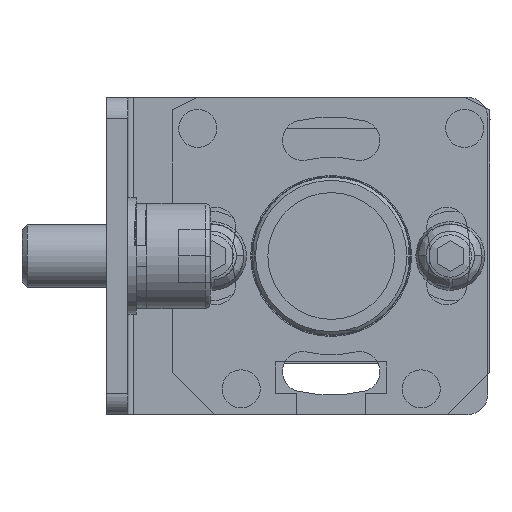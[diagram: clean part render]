
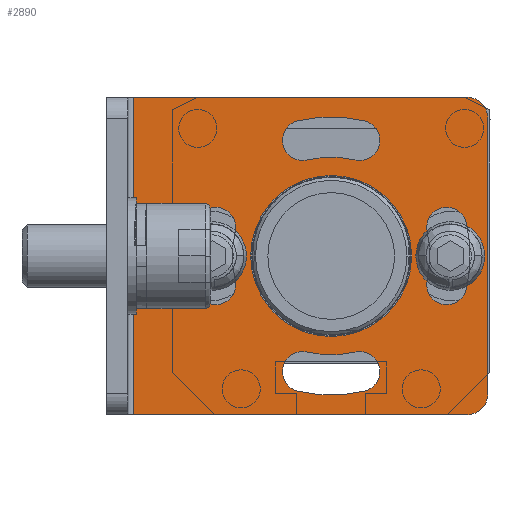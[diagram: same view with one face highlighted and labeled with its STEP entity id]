
A CAD part, front view. The second image highlights one B-rep face of the part: STEP entity #2890.
In plain terms, the highlighted planar face has unit normal (0, -1, 0).
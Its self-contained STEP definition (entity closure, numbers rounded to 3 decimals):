
#692=LINE('',#40684,#1452);
#697=LINE('',#40696,#1457);
#703=LINE('',#40712,#1463);
#707=LINE('',#40736,#1467);
#1452=VECTOR('',#13263,1.);
#1457=VECTOR('',#13272,1.);
#1463=VECTOR('',#13290,1.);
#1467=VECTOR('',#13320,1.);
#1962=PLANE('',#11082);
#2299=FACE_BOUND('',#4309,.T.);
#2300=FACE_BOUND('',#4310,.T.);
#2301=FACE_BOUND('',#4311,.T.);
#2302=FACE_BOUND('',#4312,.T.);
#2303=FACE_BOUND('',#4313,.T.);
#2304=FACE_BOUND('',#4314,.T.);
#2890=ADVANCED_FACE('',(#2299,#2300,#2301,#2302,#2303,#2304),#1962,.T.);
#4309=EDGE_LOOP('',(#6781,#6782,#6783,#6784));
#4310=EDGE_LOOP('',(#6785,#6786,#6787,#6788));
#4311=EDGE_LOOP('',(#6789,#6790,#6791,#6792));
#4312=EDGE_LOOP('',(#6793));
#4313=EDGE_LOOP('',(#6794,#6795,#6796,#6797));
#4314=EDGE_LOOP('',(#6798,#6799,#6800,#6801,#6802,#6803));
#6781=ORIENTED_EDGE('',*,*,#9603,.T.);
#6782=ORIENTED_EDGE('',*,*,#9604,.T.);
#6783=ORIENTED_EDGE('',*,*,#9542,.T.);
#6784=ORIENTED_EDGE('',*,*,#9605,.T.);
#6785=ORIENTED_EDGE('',*,*,#9606,.T.);
#6786=ORIENTED_EDGE('',*,*,#9546,.T.);
#6787=ORIENTED_EDGE('',*,*,#9607,.T.);
#6788=ORIENTED_EDGE('',*,*,#9550,.T.);
#6789=ORIENTED_EDGE('',*,*,#9608,.T.);
#6790=ORIENTED_EDGE('',*,*,#9554,.T.);
#6791=ORIENTED_EDGE('',*,*,#9609,.T.);
#6792=ORIENTED_EDGE('',*,*,#9558,.T.);
#6793=ORIENTED_EDGE('',*,*,#9563,.T.);
#6794=ORIENTED_EDGE('',*,*,#9610,.T.);
#6795=ORIENTED_EDGE('',*,*,#9611,.T.);
#6796=ORIENTED_EDGE('',*,*,#9612,.T.);
#6797=ORIENTED_EDGE('',*,*,#9564,.T.);
#6798=ORIENTED_EDGE('',*,*,#9613,.T.);
#6799=ORIENTED_EDGE('',*,*,#9614,.T.);
#6800=ORIENTED_EDGE('',*,*,#9598,.F.);
#6801=ORIENTED_EDGE('',*,*,#9584,.T.);
#6802=ORIENTED_EDGE('',*,*,#9590,.F.);
#6803=ORIENTED_EDGE('',*,*,#9615,.T.);
#8262=VERTEX_POINT('',#40594);
#8263=VERTEX_POINT('',#40595);
#8266=VERTEX_POINT('',#40603);
#8267=VERTEX_POINT('',#40604);
#8270=VERTEX_POINT('',#40612);
#8271=VERTEX_POINT('',#40613);
#8274=VERTEX_POINT('',#40621);
#8275=VERTEX_POINT('',#40622);
#8278=VERTEX_POINT('',#40630);
#8279=VERTEX_POINT('',#40631);
#8283=VERTEX_POINT('',#40641);
#8284=VERTEX_POINT('',#40644);
#8285=VERTEX_POINT('',#40645);
#8298=VERTEX_POINT('',#40681);
#8299=VERTEX_POINT('',#40683);
#8304=VERTEX_POINT('',#40695);
#8309=VERTEX_POINT('',#40713);
#8312=VERTEX_POINT('',#40723);
#8313=VERTEX_POINT('',#40724);
#8314=VERTEX_POINT('',#40732);
#8315=VERTEX_POINT('',#40734);
#8316=VERTEX_POINT('',#40737);
#8317=VERTEX_POINT('',#40738);
#9542=EDGE_CURVE('',#8262,#8263,#10244,.T.);
#9546=EDGE_CURVE('',#8266,#8267,#10246,.T.);
#9550=EDGE_CURVE('',#8270,#8271,#10248,.T.);
#9554=EDGE_CURVE('',#8274,#8275,#10250,.T.);
#9558=EDGE_CURVE('',#8278,#8279,#10252,.T.);
#9563=EDGE_CURVE('',#8283,#8283,#10255,.T.);
#9564=EDGE_CURVE('',#8284,#8285,#10256,.T.);
#9584=EDGE_CURVE('',#8298,#8299,#692,.T.);
#9590=EDGE_CURVE('',#8304,#8299,#697,.T.);
#9598=EDGE_CURVE('',#8298,#8309,#703,.T.);
#9603=EDGE_CURVE('',#8312,#8313,#10268,.T.);
#9604=EDGE_CURVE('',#8313,#8262,#10269,.T.);
#9605=EDGE_CURVE('',#8263,#8312,#10270,.T.);
#9606=EDGE_CURVE('',#8271,#8266,#10271,.T.);
#9607=EDGE_CURVE('',#8267,#8270,#10272,.T.);
#9608=EDGE_CURVE('',#8279,#8274,#10273,.T.);
#9609=EDGE_CURVE('',#8275,#8278,#10274,.T.);
#9610=EDGE_CURVE('',#8285,#8314,#10275,.T.);
#9611=EDGE_CURVE('',#8314,#8315,#10276,.T.);
#9612=EDGE_CURVE('',#8315,#8284,#10277,.T.);
#9613=EDGE_CURVE('',#8316,#8317,#707,.T.);
#9614=EDGE_CURVE('',#8317,#8309,#10278,.T.);
#9615=EDGE_CURVE('',#8304,#8316,#10279,.T.);
#10244=CIRCLE('',#11028,1.9);
#10246=CIRCLE('',#11031,13.15);
#10248=CIRCLE('',#11034,9.35);
#10250=CIRCLE('',#11037,1.9);
#10252=CIRCLE('',#11040,1.9);
#10255=CIRCLE('',#11044,7.6);
#10256=CIRCLE('',#11046,1.9);
#10268=CIRCLE('',#11070,1.9);
#10269=CIRCLE('',#11071,13.15);
#10270=CIRCLE('',#11072,9.35);
#10271=CIRCLE('',#11073,1.9);
#10272=CIRCLE('',#11074,1.9);
#10273=CIRCLE('',#11075,13.15);
#10274=CIRCLE('',#11076,9.35);
#10275=CIRCLE('',#11077,13.15);
#10276=CIRCLE('',#11078,1.9);
#10277=CIRCLE('',#11079,9.35);
#10278=CIRCLE('',#11080,2.);
#10279=CIRCLE('',#11081,2.);
#11028=AXIS2_PLACEMENT_3D('',#40593,#13179,#13180);
#11031=AXIS2_PLACEMENT_3D('',#40602,#13187,#13188);
#11034=AXIS2_PLACEMENT_3D('',#40611,#13195,#13196);
#11037=AXIS2_PLACEMENT_3D('',#40620,#13203,#13204);
#11040=AXIS2_PLACEMENT_3D('',#40629,#13211,#13212);
#11044=AXIS2_PLACEMENT_3D('',#40640,#13221,#13222);
#11046=AXIS2_PLACEMENT_3D('',#40643,#13225,#13226);
#11070=AXIS2_PLACEMENT_3D('',#40722,#13300,#13301);
#11071=AXIS2_PLACEMENT_3D('',#40725,#13302,#13303);
#11072=AXIS2_PLACEMENT_3D('',#40726,#13304,#13305);
#11073=AXIS2_PLACEMENT_3D('',#40727,#13306,#13307);
#11074=AXIS2_PLACEMENT_3D('',#40728,#13308,#13309);
#11075=AXIS2_PLACEMENT_3D('',#40729,#13310,#13311);
#11076=AXIS2_PLACEMENT_3D('',#40730,#13312,#13313);
#11077=AXIS2_PLACEMENT_3D('',#40731,#13314,#13315);
#11078=AXIS2_PLACEMENT_3D('',#40733,#13316,#13317);
#11079=AXIS2_PLACEMENT_3D('',#40735,#13318,#13319);
#11080=AXIS2_PLACEMENT_3D('',#40739,#13321,#13322);
#11081=AXIS2_PLACEMENT_3D('',#40740,#13323,#13324);
#11082=AXIS2_PLACEMENT_3D('',#40741,#13325,#13326);
#13179=DIRECTION('',(0.,1.,0.));
#13180=DIRECTION('',(0.,0.,1.));
#13187=DIRECTION('',(0.,1.,0.));
#13188=DIRECTION('',(0.,0.,1.));
#13195=DIRECTION('',(0.,-1.,0.));
#13196=DIRECTION('',(0.,0.,1.));
#13203=DIRECTION('',(0.,1.,0.));
#13204=DIRECTION('',(0.,0.,1.));
#13211=DIRECTION('',(0.,1.,0.));
#13212=DIRECTION('',(0.,0.,1.));
#13221=DIRECTION('',(0.,1.,0.));
#13222=DIRECTION('',(0.,0.,1.));
#13225=DIRECTION('',(0.,1.,0.));
#13226=DIRECTION('',(0.,0.,1.));
#13263=DIRECTION('',(0.,0.,-1.));
#13272=DIRECTION('',(-1.,0.,0.));
#13290=DIRECTION('',(1.,0.,0.));
#13300=DIRECTION('',(0.,1.,0.));
#13301=DIRECTION('',(0.,0.,1.));
#13302=DIRECTION('',(0.,1.,0.));
#13303=DIRECTION('',(0.,0.,1.));
#13304=DIRECTION('',(0.,-1.,0.));
#13305=DIRECTION('',(0.,0.,1.));
#13306=DIRECTION('',(0.,1.,0.));
#13307=DIRECTION('',(0.,0.,1.));
#13308=DIRECTION('',(0.,1.,0.));
#13309=DIRECTION('',(0.,0.,1.));
#13310=DIRECTION('',(0.,1.,0.));
#13311=DIRECTION('',(0.,0.,1.));
#13312=DIRECTION('',(0.,-1.,0.));
#13313=DIRECTION('',(0.,0.,1.));
#13314=DIRECTION('',(0.,1.,0.));
#13315=DIRECTION('',(0.,0.,1.));
#13316=DIRECTION('',(0.,1.,0.));
#13317=DIRECTION('',(0.,0.,1.));
#13318=DIRECTION('',(0.,-1.,0.));
#13319=DIRECTION('',(0.,0.,1.));
#13320=DIRECTION('',(0.,0.,1.));
#13321=DIRECTION('',(0.,-1.,0.));
#13322=DIRECTION('',(0.,0.,-1.));
#13323=DIRECTION('',(0.,-1.,0.));
#13324=DIRECTION('',(0.,0.,1.));
#13325=DIRECTION('',(0.,-1.,0.));
#13326=DIRECTION('',(1.,0.,0.));
#40593=CARTESIAN_POINT('',(-110.921,-578.,2.851));
#40594=CARTESIAN_POINT('',(-112.765,-578.,3.307));
#40595=CARTESIAN_POINT('',(-109.077,-578.,2.395));
#40602=CARTESIAN_POINT('',(-100.,-578.,0.15));
#40603=CARTESIAN_POINT('',(-103.157,-578.,12.915));
#40604=CARTESIAN_POINT('',(-96.843,-578.,12.915));
#40611=CARTESIAN_POINT('',(-100.,-578.,0.15));
#40612=CARTESIAN_POINT('',(-97.755,-578.,9.227));
#40613=CARTESIAN_POINT('',(-102.245,-578.,9.227));
#40620=CARTESIAN_POINT('',(-102.701,-578.,-10.771));
#40621=CARTESIAN_POINT('',(-103.157,-578.,-12.615));
#40622=CARTESIAN_POINT('',(-102.245,-578.,-8.927));
#40629=CARTESIAN_POINT('',(-97.299,-578.,-10.771));
#40630=CARTESIAN_POINT('',(-97.755,-578.,-8.927));
#40631=CARTESIAN_POINT('',(-96.843,-578.,-12.615));
#40640=CARTESIAN_POINT('',(-100.,-578.,0.15));
#40641=CARTESIAN_POINT('',(-100.,-578.,7.75));
#40643=CARTESIAN_POINT('',(-89.079,-578.,2.851));
#40644=CARTESIAN_POINT('',(-90.923,-578.,2.395));
#40645=CARTESIAN_POINT('',(-87.235,-578.,3.307));
#40681=CARTESIAN_POINT('',(-118.7,-578.,15.15));
#40683=CARTESIAN_POINT('',(-118.7,-578.,-14.85));
#40684=CARTESIAN_POINT('',(-118.7,-578.,15.15));
#40695=CARTESIAN_POINT('',(-87.2,-578.,-14.85));
#40696=CARTESIAN_POINT('',(-118.7,-578.,-14.85));
#40712=CARTESIAN_POINT('',(-118.7,-578.,15.15));
#40713=CARTESIAN_POINT('',(-87.2,-578.,15.15));
#40722=CARTESIAN_POINT('',(-110.921,-578.,-2.551));
#40723=CARTESIAN_POINT('',(-109.077,-578.,-2.095));
#40724=CARTESIAN_POINT('',(-112.765,-578.,-3.007));
#40725=CARTESIAN_POINT('',(-100.,-578.,0.15));
#40726=CARTESIAN_POINT('',(-100.,-578.,0.15));
#40727=CARTESIAN_POINT('',(-102.701,-578.,11.071));
#40728=CARTESIAN_POINT('',(-97.299,-578.,11.071));
#40729=CARTESIAN_POINT('',(-100.,-578.,0.15));
#40730=CARTESIAN_POINT('',(-100.,-578.,0.15));
#40731=CARTESIAN_POINT('',(-100.,-578.,0.15));
#40732=CARTESIAN_POINT('',(-87.235,-578.,-3.007));
#40733=CARTESIAN_POINT('',(-89.079,-578.,-2.551));
#40734=CARTESIAN_POINT('',(-90.923,-578.,-2.095));
#40735=CARTESIAN_POINT('',(-100.,-578.,0.15));
#40736=CARTESIAN_POINT('',(-85.2,-578.,15.15));
#40737=CARTESIAN_POINT('',(-85.2,-578.,-12.85));
#40738=CARTESIAN_POINT('',(-85.2,-578.,13.15));
#40739=CARTESIAN_POINT('',(-87.2,-578.,13.15));
#40740=CARTESIAN_POINT('',(-87.2,-578.,-12.85));
#40741=CARTESIAN_POINT('',(-85.2,-578.,15.15));
